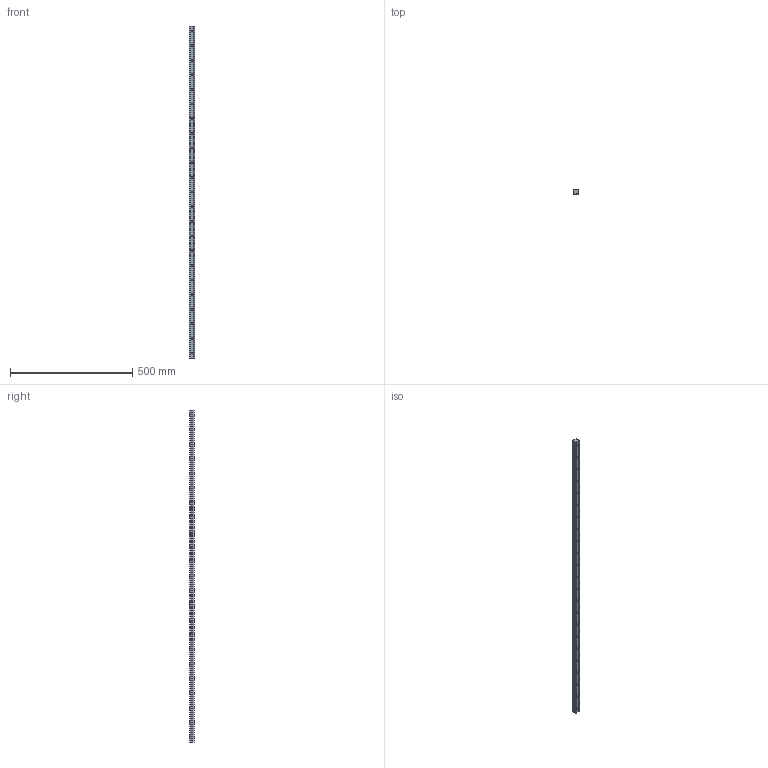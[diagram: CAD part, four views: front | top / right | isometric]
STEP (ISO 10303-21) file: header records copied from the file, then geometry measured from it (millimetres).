
FILE_DESCRIPTION (( 'STEP AP203' ), '1' );
FILE_NAME ('L1016.BL25-1360.step', '2019-06-12T12:07:30', ( '' ), ( '' ), 'SwSTEP 2.0', 'SolidWorks 2017', '' );
FILE_SCHEMA (( 'CONFIG_CONTROL_DESIGN' ));
Length unit declared in the file: millimetre
Products named in the file (1): L1016.BL25-1360
Bounding box: 23 x 19.2 x 1360 mm (x, y, z)
Volume: 500962.2 mm3; surface area: 129175.9 mm2
Topology: 1 solids, 1 shells, 141 faces, 348 edges, 232 vertices
Faces by surface type: cylinder 96, plane 45
Entity records: 4443 total; most frequent: DIRECTION 824, CARTESIAN_POINT 722, ORIENTED_EDGE 696, EDGE_CURVE 348, AXIS2_PLACEMENT_3D 334, VERTEX_POINT 232, EDGE_LOOP 210, CIRCLE 192
